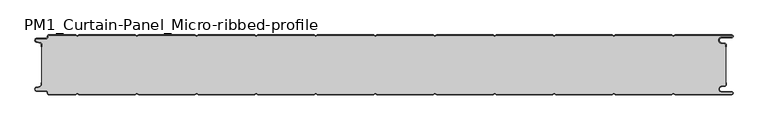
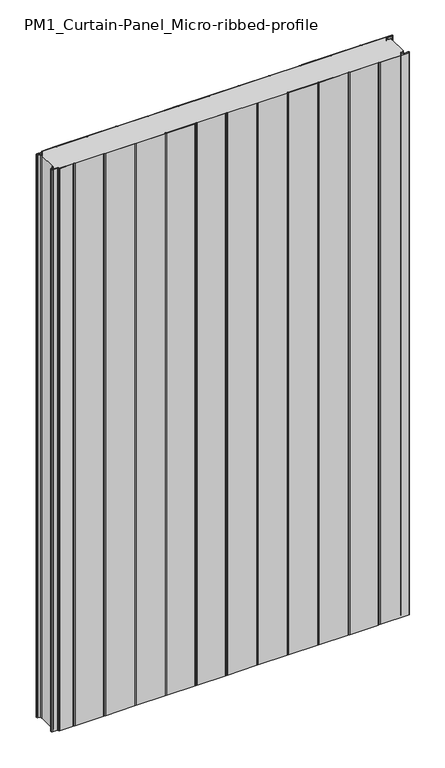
"""IFC4 building model written with IfcOpenShell, lengths in millimetres: plate geometry, PM1_Curtain-Panel_Micro-ribbed-profile : ACH_PM1_Stone-wool-Panel_100M."""

from ifc_helpers import new_model, si_unit, point, frame_2d, origin, origin_with_axes, place, context, project, spatial, polyline, circle_curve, trimmed, segment, composite_curve, outline, extrude, source, transform, mapped, element, save


def pm1_curtain_panel_micro_ribbed_profile_298a3a5b(model_context):
    return source(origin(), model_context, "Body", "SweptSolid", [
        extrude(outline(composite_curve([segment(trimmed(circle_curve(frame_2d((-577.0, -15.878557)), 2.0), [point((-575.0, -15.878557))], [point((-576.5500978, -13.9298169))], True, "CARTESIAN"), True, "CONTINUOUS"), segment(polyline([(-576.5500978, -13.9298169), (-582.7098239, -12.507732)]), True, "CONTINUOUS"), segment(trimmed(circle_curve(frame_2d((-581.9, -9.0)), 3.6), [point((-582.7098239, -12.507732))], [point((-581.9, -5.4))], False, "CARTESIAN"), True, "CONTINUOUS"), segment(polyline([(-581.9, -5.4), (-566.4, -5.4)]), True, "CONTINUOUS"), segment(trimmed(circle_curve(frame_2d((-566.4, -3.4)), 2.0), [point((-566.4, -5.4))], [point((-564.4, -3.4))], True, "CARTESIAN"), True, "CONTINUOUS"), segment(polyline([(-564.4, -3.4), (-564.4, -2.0)]), True, "CONTINUOUS"), segment(trimmed(circle_curve(frame_2d((-562.4, -2.0)), 2.0), [point((-564.4, -2.0))], [point((-562.4, 0.0))], False, "CARTESIAN"), True, "CONTINUOUS"), segment(polyline([(-562.4, 0.0), (-517.0999995, 0.0), (-514.4, -1.5588455), (-511.7000005, 0.0), (-417.0999995, 0.0), (-414.4, -1.5588455), (-411.7000005, 0.0), (-317.0999995, 0.0), (-314.4, -1.5588455), (-311.7000005, 0.0), (-217.0999995, 0.0), (-214.4, -1.5588455), (-211.7000005, 0.0), (-117.0999995, 0.0), (-114.4, -1.5588455), (-111.7000005, 0.0), (-17.0999995, 0.0), (-14.4, -1.5588455), (-11.7000005, 0.0), (82.9000005, 0.0), (85.6, -1.5588455), (88.2999995, 0.0), (182.9000005, 0.0), (185.6, -1.5588455), (188.2999995, 0.0), (282.9000005, 0.0), (285.6, -1.5588455), (288.2999995, 0.0), (382.9000005, 0.0), (385.6, -1.5588455), (388.2999995, 0.0), (482.9000005, 0.0), (485.6, -1.5588455), (488.2999995, 0.0), (583.1, 0.0)]), True, "CONTINUOUS"), segment(trimmed(circle_curve(frame_2d((583.1, -2.5)), 2.5), [point((583.1, 0.0))], [point((583.1, -5.0))], False, "CARTESIAN"), True, "CONTINUOUS"), segment(polyline([(583.1, -5.0), (566.1, -5.0)]), True, "CONTINUOUS"), segment(trimmed(circle_curve(frame_2d((566.1, -9.0)), 4.0), [point((566.1, -5.0))], [point((565.405407, -12.939231))], True, "CARTESIAN"), True, "CONTINUOUS"), segment(polyline([(565.405407, -12.939231), (571.8514855, -14.0758491)]), True, "CONTINUOUS"), segment(trimmed(circle_curve(frame_2d((571.4, -16.6363492)), 2.6), [point((571.8514855, -14.0758491))], [point((574.0, -16.6363492))], False, "CARTESIAN"), True, "CONTINUOUS"), segment(polyline([(574.0, -16.6363492), (574.0, -20.0), (573.2, -20.0), (573.2, -16.6363492)]), True, "CONTINUOUS"), segment(trimmed(circle_curve(frame_2d((571.4, -16.6363492)), 1.8), [point((573.2, -16.6363492))], [point((571.7125669, -14.8636953))], True, "CARTESIAN"), True, "CONTINUOUS"), segment(polyline([(571.7125669, -14.8636953), (565.2664884, -13.7270772)]), True, "CONTINUOUS"), segment(trimmed(circle_curve(frame_2d((566.1, -9.0)), 4.8), [point((565.2664884, -13.7270772))], [point((566.1, -4.2))], False, "CARTESIAN"), True, "CONTINUOUS"), segment(polyline([(566.1, -4.2), (583.1, -4.2)]), True, "CONTINUOUS"), segment(trimmed(circle_curve(frame_2d((583.1, -2.5)), 1.7), [point((583.1, -4.2))], [point((583.1, -0.8))], True, "CARTESIAN"), True, "CONTINUOUS"), segment(polyline([(583.1, -0.8), (488.5143588, -0.8), (485.6, -2.482606), (482.6856412, -0.8), (388.5143588, -0.8), (385.6, -2.482606), (382.6856412, -0.8), (288.5143588, -0.8), (285.6, -2.482606), (282.6856412, -0.8), (188.5143588, -0.8), (185.6, -2.482606), (182.6856412, -0.8), (88.5143588, -0.8), (85.6, -2.482606), (82.6856412, -0.8), (-11.4856412, -0.8), (-14.4, -2.482606), (-17.3143588, -0.8), (-111.4856412, -0.8), (-114.4, -2.482606), (-117.3143588, -0.8), (-211.4856412, -0.8), (-214.4, -2.482606), (-217.3143588, -0.8), (-311.4856412, -0.8), (-314.4, -2.482606), (-317.3143588, -0.8), (-411.4856412, -0.8), (-414.4, -2.482606), (-417.3143588, -0.8), (-511.4856412, -0.8), (-514.4, -2.482606), (-517.3143588, -0.8), (-562.4, -0.8)]), True, "CONTINUOUS"), segment(trimmed(circle_curve(frame_2d((-562.4, -2.0)), 1.2), [point((-562.4, -0.8))], [point((-563.6, -2.0))], True, "CARTESIAN"), True, "CONTINUOUS"), segment(polyline([(-563.6, -2.0), (-563.6, -3.4)]), True, "CONTINUOUS"), segment(trimmed(circle_curve(frame_2d((-566.4, -3.4)), 2.8), [point((-563.6, -3.4))], [point((-566.4, -6.2))], False, "CARTESIAN"), True, "CONTINUOUS"), segment(polyline([(-566.4, -6.2), (-581.9, -6.2)]), True, "CONTINUOUS"), segment(trimmed(circle_curve(frame_2d((-581.9, -9.0)), 2.8), [point((-581.9, -6.2))], [point((-582.529863, -11.7282362))], True, "CARTESIAN"), True, "CONTINUOUS"), segment(polyline([(-582.529863, -11.7282362), (-576.370137, -13.150321)]), True, "CONTINUOUS"), segment(trimmed(circle_curve(frame_2d((-577.0, -15.878557)), 2.8), [point((-576.370137, -13.150321))], [point((-574.2, -15.878557))], False, "CARTESIAN"), True, "CONTINUOUS"), segment(polyline([(-574.2, -15.878557), (-574.2, -20.0), (-575.0, -20.0), (-575.0, -15.878557)]), True, "CONTINUOUS")], self_intersect=False)), origin_with_axes(), (0.0, 0.0, 1.0), 1945.7507136),
        extrude(outline(composite_curve([segment(polyline([(-574.2, -84.1214426), (-574.2, -15.8785573)]), True, "CONTINUOUS"), segment(trimmed(circle_curve(frame_2d((-577.0, -15.8785573)), 2.8), [point((-574.2, -15.8785573))], [point((-576.370137, -13.1503212))], True, "CARTESIAN"), True, "CONTINUOUS"), segment(polyline([(-576.370137, -13.1503212), (-582.5298631, -11.7282362)]), True, "CONTINUOUS"), segment(trimmed(circle_curve(frame_2d((-581.9, -9.0)), 2.8), [point((-582.5298631, -11.7282362))], [point((-581.9, -6.2))], False, "CARTESIAN"), True, "CONTINUOUS"), segment(polyline([(-581.9, -6.2), (-566.4000001, -6.2)]), True, "CONTINUOUS"), segment(trimmed(circle_curve(frame_2d((-566.4000001, -3.4)), 2.8), [point((-566.4000001, -6.2))], [point((-563.6000001, -3.4))], True, "CARTESIAN"), True, "CONTINUOUS"), segment(polyline([(-563.6000001, -3.4), (-563.6000001, -2.0)]), True, "CONTINUOUS"), segment(trimmed(circle_curve(frame_2d((-562.4000001, -2.0)), 1.2), [point((-563.6000001, -2.0))], [point((-562.4000001, -0.8))], False, "CARTESIAN"), True, "CONTINUOUS"), segment(polyline([(-562.4000001, -0.8), (-517.3143589, -0.8), (-514.4000001, -2.482606), (-511.4856412, -0.8), (-417.3143589, -0.8), (-414.4000001, -2.482606), (-411.4856412, -0.8), (-317.3143589, -0.8), (-314.4000001, -2.482606), (-311.4856412, -0.8), (-217.3143589, -0.8), (-214.4000001, -2.482606), (-211.4856412, -0.8), (-117.3143589, -0.8), (-114.4000001, -2.482606), (-111.4856412, -0.8), (-17.3143589, -0.8), (-14.4000001, -2.482606), (-11.4856412, -0.8), (82.6856411, -0.8), (85.5999999, -2.482606), (88.5143588, -0.8), (182.6856411, -0.8), (185.5999999, -2.482606), (188.5143588, -0.8), (282.6856411, -0.8), (285.5999999, -2.482606), (288.5143588, -0.8), (382.6856411, -0.8), (385.5999999, -2.482606), (388.5143588, -0.8), (482.6856411, -0.8), (485.6, -2.482606), (488.5143588, -0.8), (583.1, -0.8)]), True, "CONTINUOUS"), segment(trimmed(circle_curve(frame_2d((583.1, -2.5)), 1.7), [point((583.1, -0.8))], [point((583.1, -4.2))], False, "CARTESIAN"), True, "CONTINUOUS"), segment(polyline([(583.1, -4.2), (566.1, -4.2)]), True, "CONTINUOUS"), segment(trimmed(circle_curve(frame_2d((566.1, -9.0)), 4.8), [point((566.1, -4.2))], [point((565.2664883, -13.7270771))], True, "CARTESIAN"), True, "CONTINUOUS"), segment(polyline([(565.2664883, -13.7270771), (571.7125668, -14.8636953)]), True, "CONTINUOUS"), segment(trimmed(circle_curve(frame_2d((571.4, -16.6363492)), 1.8), [point((571.7125668, -14.8636953))], [point((573.2, -16.6363492))], False, "CARTESIAN"), True, "CONTINUOUS"), segment(polyline([(573.2, -16.6363492), (573.2, -83.3636508)]), True, "CONTINUOUS"), segment(trimmed(circle_curve(frame_2d((571.4, -83.3636508)), 1.8), [point((573.2, -83.3636508))], [point((571.7125668, -85.1363047))], False, "CARTESIAN"), True, "CONTINUOUS"), segment(polyline([(571.7125668, -85.1363047), (565.2664883, -86.2729229)]), True, "CONTINUOUS"), segment(trimmed(circle_curve(frame_2d((566.1, -91.0)), 4.8), [point((565.2664883, -86.2729229))], [point((566.1, -95.8))], True, "CARTESIAN"), True, "CONTINUOUS"), segment(polyline([(566.1, -95.8), (583.1, -95.8)]), True, "CONTINUOUS"), segment(trimmed(circle_curve(frame_2d((583.1, -97.5)), 1.7), [point((583.1, -95.8))], [point((583.1, -99.2))], False, "CARTESIAN"), True, "CONTINUOUS"), segment(polyline([(583.1, -99.2), (488.5143588, -99.2), (485.6, -97.517394), (482.6856411, -99.2), (388.5143588, -99.2), (385.5999999, -97.517394), (382.6856411, -99.2), (288.5143588, -99.2), (285.5999999, -97.517394), (282.6856411, -99.2), (188.5143588, -99.2), (185.5999999, -97.517394), (182.6856411, -99.2), (88.5143588, -99.2), (85.5999999, -97.517394), (82.6856411, -99.2), (-11.4856412, -99.2), (-14.4000001, -97.517394), (-17.3143589, -99.2), (-111.4856412, -99.2), (-114.4000001, -97.517394), (-117.3143589, -99.2), (-211.4856412, -99.2), (-214.4000001, -97.517394), (-217.3143589, -99.2), (-311.4856412, -99.2), (-314.4000001, -97.517394), (-317.3143589, -99.2), (-411.4856412, -99.2), (-414.4000001, -97.517394), (-417.3143589, -99.2), (-511.4856412, -99.2), (-514.4000001, -97.517394), (-517.3143589, -99.2), (-562.4000001, -99.2)]), True, "CONTINUOUS"), segment(trimmed(circle_curve(frame_2d((-562.4000001, -98.0)), 1.2), [point((-562.4000001, -99.2))], [point((-563.6000001, -98.0))], False, "CARTESIAN"), True, "CONTINUOUS"), segment(polyline([(-563.6000001, -98.0), (-563.6000001, -96.6)]), True, "CONTINUOUS"), segment(trimmed(circle_curve(frame_2d((-566.4000001, -96.6)), 2.8), [point((-563.6000001, -96.6))], [point((-566.4000001, -93.8))], True, "CARTESIAN"), True, "CONTINUOUS"), segment(polyline([(-566.4000001, -93.8), (-581.9, -93.8)]), True, "CONTINUOUS"), segment(trimmed(circle_curve(frame_2d((-581.9, -91.0)), 2.8), [point((-581.9, -93.8))], [point((-582.5298631, -88.2717638))], False, "CARTESIAN"), True, "CONTINUOUS"), segment(polyline([(-582.5298631, -88.2717638), (-576.370137, -86.8496788)]), True, "CONTINUOUS"), segment(trimmed(circle_curve(frame_2d((-577.0, -84.1214426)), 2.8), [point((-576.370137, -86.8496788))], [point((-574.2, -84.1214426))], True, "CARTESIAN"), True, "CONTINUOUS")], self_intersect=False)), origin_with_axes(), (0.0, 0.0, 1.0), 1945.7507136),
        extrude(outline(composite_curve([segment(polyline([(-575.0, -84.121443), (-575.0, -80.0), (-574.2, -80.0), (-574.2, -84.121443)]), True, "CONTINUOUS"), segment(trimmed(circle_curve(frame_2d((-577.0, -84.121443)), 2.8), [point((-574.2, -84.121443))], [point((-576.370137, -86.8496792))], False, "CARTESIAN"), True, "CONTINUOUS"), segment(polyline([(-576.370137, -86.8496792), (-582.529863, -88.271764)]), True, "CONTINUOUS"), segment(trimmed(circle_curve(frame_2d((-581.9, -91.0)), 2.8), [point((-582.529863, -88.271764))], [point((-581.9, -93.8))], True, "CARTESIAN"), True, "CONTINUOUS"), segment(polyline([(-581.9, -93.8), (-566.4, -93.8)]), True, "CONTINUOUS"), segment(trimmed(circle_curve(frame_2d((-566.4, -96.6)), 2.8), [point((-566.4, -93.8))], [point((-563.6, -96.6))], False, "CARTESIAN"), True, "CONTINUOUS"), segment(polyline([(-563.6, -96.6), (-563.6, -98.0)]), True, "CONTINUOUS"), segment(trimmed(circle_curve(frame_2d((-562.4, -98.0)), 1.2), [point((-563.6, -98.0))], [point((-562.4, -99.2))], True, "CARTESIAN"), True, "CONTINUOUS"), segment(polyline([(-562.4, -99.2), (-517.3143588, -99.2), (-514.4, -97.517394), (-511.4856412, -99.2), (-417.3143588, -99.2), (-414.4, -97.517394), (-411.4856412, -99.2), (-317.3143588, -99.2), (-314.4, -97.517394), (-311.4856412, -99.2), (-217.3143588, -99.2), (-214.4, -97.517394), (-211.4856412, -99.2), (-117.3143588, -99.2), (-114.4, -97.517394), (-111.4856412, -99.2), (-17.3143588, -99.2), (-14.4, -97.517394), (-11.4856412, -99.2), (82.6856412, -99.2), (85.6, -97.517394), (88.5143588, -99.2), (182.6856412, -99.2), (185.6, -97.517394), (188.5143588, -99.2), (282.6856412, -99.2), (285.6, -97.517394), (288.5143588, -99.2), (382.6856412, -99.2), (385.6, -97.517394), (388.5143588, -99.2), (482.6856412, -99.2), (485.6, -97.517394), (488.5143588, -99.2), (583.1, -99.2)]), True, "CONTINUOUS"), segment(trimmed(circle_curve(frame_2d((583.1, -97.5)), 1.7), [point((583.1, -99.2))], [point((583.1, -95.8))], True, "CARTESIAN"), True, "CONTINUOUS"), segment(polyline([(583.1, -95.8), (566.1, -95.8)]), True, "CONTINUOUS"), segment(trimmed(circle_curve(frame_2d((566.1, -91.0)), 4.8), [point((566.1, -95.8))], [point((565.2664884, -86.2729229))], False, "CARTESIAN"), True, "CONTINUOUS"), segment(polyline([(565.2664884, -86.2729229), (571.7125669, -85.1363047)]), True, "CONTINUOUS"), segment(trimmed(circle_curve(frame_2d((571.4, -83.3636508)), 1.8), [point((571.7125669, -85.1363047))], [point((573.2, -83.3636508))], True, "CARTESIAN"), True, "CONTINUOUS"), segment(polyline([(573.2, -83.3636508), (573.2, -80.0), (574.0, -80.0), (574.0, -83.3636508)]), True, "CONTINUOUS"), segment(trimmed(circle_curve(frame_2d((571.4, -83.3636508)), 2.6), [point((574.0, -83.3636508))], [point((571.8514855, -85.9241509))], False, "CARTESIAN"), True, "CONTINUOUS"), segment(polyline([(571.8514855, -85.9241509), (565.405407, -87.060769)]), True, "CONTINUOUS"), segment(trimmed(circle_curve(frame_2d((566.1, -91.0)), 4.0), [point((565.405407, -87.060769))], [point((566.1, -95.0))], True, "CARTESIAN"), True, "CONTINUOUS"), segment(polyline([(566.1, -95.0), (583.1, -95.0)]), True, "CONTINUOUS"), segment(trimmed(circle_curve(frame_2d((583.1, -97.5)), 2.5), [point((583.1, -95.0))], [point((583.1, -100.0))], False, "CARTESIAN"), True, "CONTINUOUS"), segment(polyline([(583.1, -100.0), (488.2999995, -100.0), (485.6, -98.4411545), (482.9000005, -100.0), (388.2999995, -100.0), (385.6, -98.4411545), (382.9000005, -100.0), (288.2999995, -100.0), (285.6, -98.4411545), (282.9000005, -100.0), (188.2999995, -100.0), (185.6, -98.4411545), (182.9000005, -100.0), (88.2999995, -100.0), (85.6, -98.4411545), (82.9000005, -100.0), (-11.7000005, -100.0), (-14.4, -98.4411545), (-17.0999995, -100.0), (-111.7000005, -100.0), (-114.4, -98.4411545), (-117.0999995, -100.0), (-211.7000005, -100.0), (-214.4, -98.4411545), (-217.0999995, -100.0), (-311.7000005, -100.0), (-314.4, -98.4411545), (-317.0999995, -100.0), (-411.7000005, -100.0), (-414.4, -98.4411545), (-417.0999995, -100.0), (-511.7000005, -100.0), (-514.4, -98.4411545), (-517.0999995, -100.0), (-562.4, -100.0)]), True, "CONTINUOUS"), segment(trimmed(circle_curve(frame_2d((-562.4, -98.0)), 2.0), [point((-562.4, -100.0))], [point((-564.4, -98.0))], False, "CARTESIAN"), True, "CONTINUOUS"), segment(polyline([(-564.4, -98.0), (-564.4, -96.6)]), True, "CONTINUOUS"), segment(trimmed(circle_curve(frame_2d((-566.4, -96.6)), 2.0), [point((-564.4, -96.6))], [point((-566.4, -94.6))], True, "CARTESIAN"), True, "CONTINUOUS"), segment(polyline([(-566.4, -94.6), (-581.9, -94.6)]), True, "CONTINUOUS"), segment(trimmed(circle_curve(frame_2d((-581.9, -91.0)), 3.6), [point((-581.9, -94.6))], [point((-582.7098239, -87.4922678))], False, "CARTESIAN"), True, "CONTINUOUS"), segment(polyline([(-582.7098239, -87.4922678), (-576.5500979, -86.070183)]), True, "CONTINUOUS"), segment(trimmed(circle_curve(frame_2d((-577.0, -84.121443)), 2.0), [point((-576.5500979, -86.070183))], [point((-575.0, -84.121443))], True, "CARTESIAN"), True, "CONTINUOUS")], self_intersect=False)), origin_with_axes(), (0.0, 0.0, 1.0), 1945.7507136),
    ])


if __name__ == "__main__":
    model = new_model("IFC4")
    model_context = context("Model", 3, world=origin())
    ifc_project = project(units=[si_unit("LENGTHUNIT", "METRE", prefix="MILLI")], contexts=[model_context])
    site = spatial("IfcSite", under=ifc_project)
    building = spatial("IfcBuilding", under=site)
    placement = place(None, origin())
    pm1_curtain_panel_micro_ribbed_profile_shape = pm1_curtain_panel_micro_ribbed_profile_298a3a5b(model_context)
    element("IfcPlate", 1, ObjectType="PM1_Curtain-Panel_Micro-ribbed-profile : ACH_PM1_Stone-wool-Panel_100M", at=placement, inside=building, context=model_context, shape_type="MappedRepresentation", body=[
        mapped(pm1_curtain_panel_micro_ribbed_profile_shape, transform((0.0, 0.0, 0.0), x_axis=(1.0, 0.0, 0.0), y_axis=(0.0, 1.0, 0.0), z_axis=(0.0, 0.0, 1.0))),
    ])
    save(model, "model.ifc")
